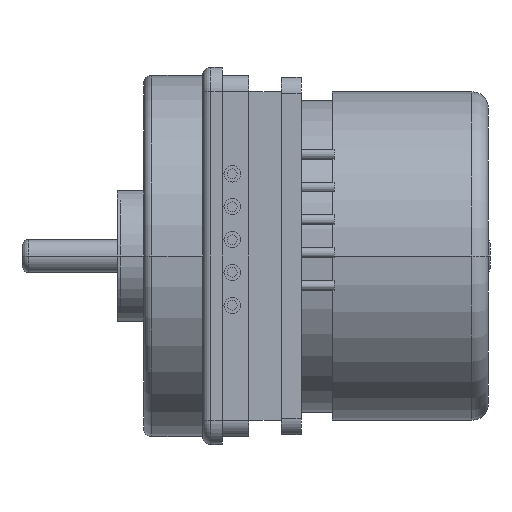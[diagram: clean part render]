
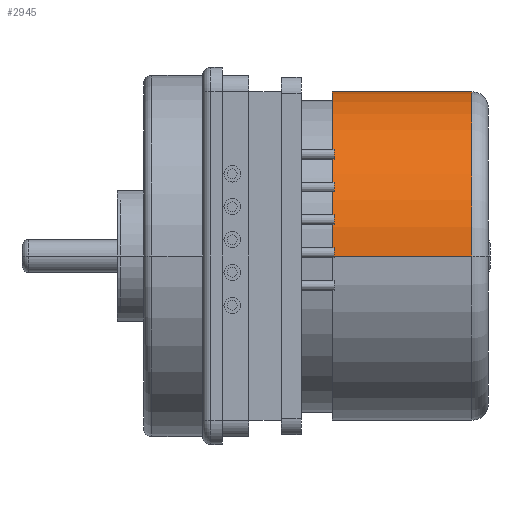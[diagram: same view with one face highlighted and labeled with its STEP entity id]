
A CAD part, front view. The second image highlights one B-rep face of the part: STEP entity #2945.
In plain terms, the highlighted cylindrical face has radius 10 mm (diameter 20 mm), a partial arc.
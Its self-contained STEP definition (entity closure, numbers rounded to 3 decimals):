
#891=CARTESIAN_POINT('',(7.9,0.,0.));
#892=DIRECTION('',(1.,0.,0.));
#893=DIRECTION('',(0.,1.,0.));
#894=AXIS2_PLACEMENT_3D('',#891,#892,#893);
#911=CARTESIAN_POINT('',(16.4,0.,0.));
#912=DIRECTION('',(-1.,0.,0.));
#913=DIRECTION('',(0.,-1.,0.));
#914=AXIS2_PLACEMENT_3D('',#911,#912,#913);
#931=DIRECTION('',(-1.,0.,0.));
#932=VECTOR('',#931,8.5);
#933=CARTESIAN_POINT('',(16.4,10.,0.));
#934=LINE('',#933,#932);
#935=DIRECTION('',(1.,0.,0.));
#936=VECTOR('',#935,8.5);
#937=CARTESIAN_POINT('',(7.9,-10.,0.));
#938=LINE('',#937,#936);
#1603=CARTESIAN_POINT('',(7.9,10.,0.));
#1604=CARTESIAN_POINT('',(7.9,-10.,0.));
#1605=VERTEX_POINT('',#1603);
#1606=VERTEX_POINT('',#1604);
#1607=CARTESIAN_POINT('',(16.4,-10.,0.));
#1608=CARTESIAN_POINT('',(16.4,10.,0.));
#1609=VERTEX_POINT('',#1607);
#1610=VERTEX_POINT('',#1608);
#2931=CARTESIAN_POINT('',(7.9,0.,0.));
#2932=DIRECTION('',(1.,0.,0.));
#2933=DIRECTION('',(0.,-1.,0.));
#2934=AXIS2_PLACEMENT_3D('',#2931,#2932,#2933);
#2935=CYLINDRICAL_SURFACE('',#2934,10.);
#2937=ORIENTED_EDGE('',*,*,#2936,.F.);
#2939=ORIENTED_EDGE('',*,*,#2938,.F.);
#2940=ORIENTED_EDGE('',*,*,#2920,.F.);
#2942=ORIENTED_EDGE('',*,*,#2941,.F.);
#2943=EDGE_LOOP('',(#2937,#2939,#2940,#2942));
#2944=FACE_OUTER_BOUND('',#2943,.F.);
#2945=ADVANCED_FACE('',(#2944),#2935,.T.);
#895=CIRCLE('',#894,10.);
#915=CIRCLE('',#914,10.);
#2920=EDGE_CURVE('',#1605,#1606,#895,.T.);
#2936=EDGE_CURVE('',#1609,#1610,#915,.T.);
#2938=EDGE_CURVE('',#1606,#1609,#938,.T.);
#2941=EDGE_CURVE('',#1610,#1605,#934,.T.);
